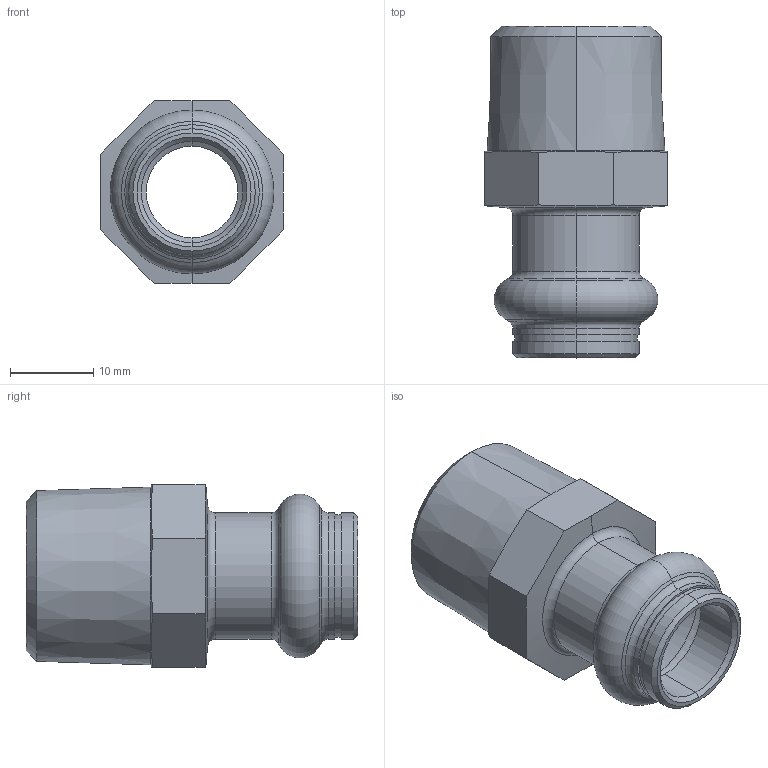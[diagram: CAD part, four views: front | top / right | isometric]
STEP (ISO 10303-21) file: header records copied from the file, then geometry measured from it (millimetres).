
FILE_DESCRIPTION (( 'STEP AP203' ), '1' );
FILE_NAME ('SP4243G Ø12 1-2.STEP', '2017-04-26T06:59:04', ( '' ), ( '' ), 'SwSTEP 2.0', 'SolidWorks 2016', '' );
FILE_SCHEMA (( 'CONFIG_CONTROL_DESIGN' ));
Length unit declared in the file: millimetre
Products named in the file (1): SP4243G Ø12 1-2
Bounding box: 22 x 39.9 x 22 mm (x, y, z)
Volume: 5248.2 mm3; surface area: 4827.4 mm2
Topology: 1 solids, 1 shells, 63 faces, 136 edges, 78 vertices
Faces by surface type: cone 24, cylinder 16, plane 13, torus 10
Entity records: 1811 total; most frequent: CARTESIAN_POINT 354, DIRECTION 312, ORIENTED_EDGE 272, EDGE_CURVE 136, AXIS2_PLACEMENT_3D 132, VERTEX_POINT 78, EDGE_LOOP 68, CIRCLE 68
